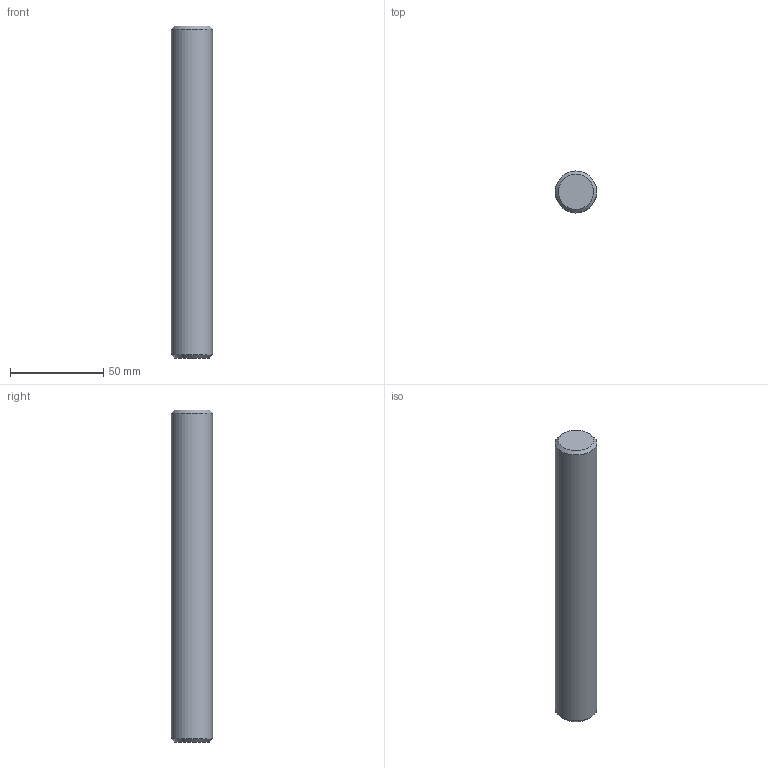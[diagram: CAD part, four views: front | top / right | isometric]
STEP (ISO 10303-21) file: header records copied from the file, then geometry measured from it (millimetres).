
FILE_DESCRIPTION (( 'STEP AP214' ), '1' );
FILE_NAME ('90322A395_High-Strength Steel Threaded Rod.STEP', '2025-01-09T19:43:24', ( '' ), ( '' ), 'SwSTEP 2.0', 'SolidWorks 2024', '' );
FILE_SCHEMA (( 'AUTOMOTIVE_DESIGN' ));
Length unit declared in the file: inch
Products named in the file (1): 90322A395_High-Strength Steel Threaded Rod_90322A395
Bounding box: 22.23 x 22.23 x 177.8 mm (x, y, z)
Volume: 68792.8 mm3; surface area: 13046.6 mm2
Topology: 1 solids, 1 shells, 5 faces, 7 edges, 4 vertices
Faces by surface type: plane 2, cone 2, cylinder 1
Full cylindrical faces by diameter (mm): 22.225 x1
Entity records: 121 total; most frequent: DIRECTION 20, CARTESIAN_POINT 14, AXIS2_PLACEMENT_3D 10, ORIENTED_EDGE 8, EDGE_LOOP 8, FACE_OUTER_BOUND 6, ADVANCED_FACE 5, CIRCLE 4
